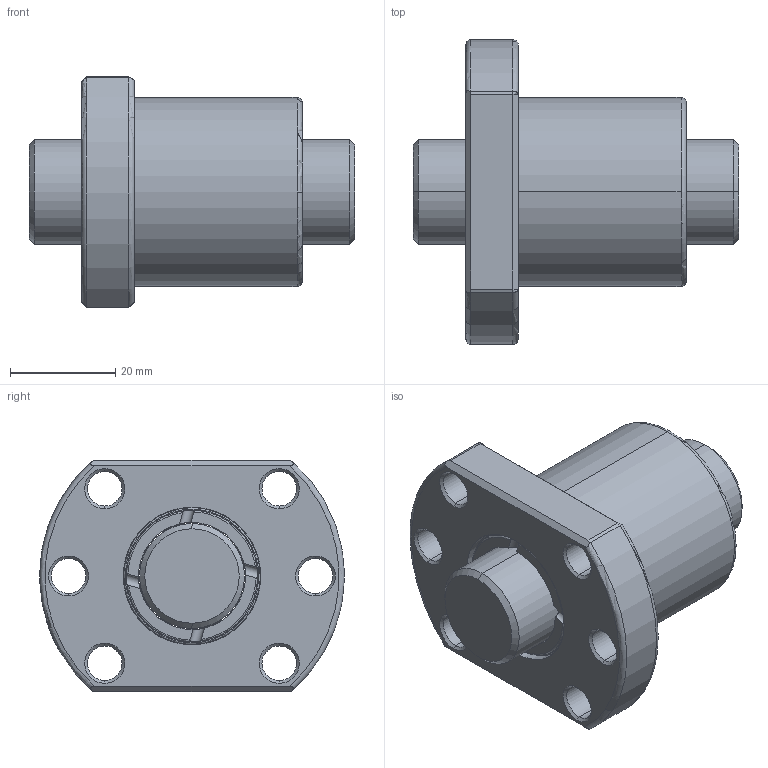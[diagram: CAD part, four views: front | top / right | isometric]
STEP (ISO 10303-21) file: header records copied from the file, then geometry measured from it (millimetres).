
FILE_DESCRIPTION (( 'STEP AP203' ), '1' );
FILE_NAME ('SFUR02004T4D-C.STEP', '2020-06-16T07:44:55', ( '' ), ( '' ), 'SwSTEP 2.0', 'SolidWorks 2013', '' );
FILE_SCHEMA (( 'CONFIG_CONTROL_DESIGN' ));
Length unit declared in the file: millimetre
Products named in the file (1): SFUR02004T4D-C
Bounding box: 62 x 58 x 44 mm (x, y, z)
Volume: 57148 mm3; surface area: 19445.5 mm2
Topology: 2 solids, 2 shells, 125 faces, 316 edges, 197 vertices
Faces by surface type: cylinder 55, plane 28, bspline 20, cone 16, torus 6
Entity records: 5297 total; most frequent: CARTESIAN_POINT 2335, ORIENTED_EDGE 628, DIRECTION 579, EDGE_CURVE 314, AXIS2_PLACEMENT_3D 243, VERTEX_POINT 197, EDGE_LOOP 147, CIRCLE 137
